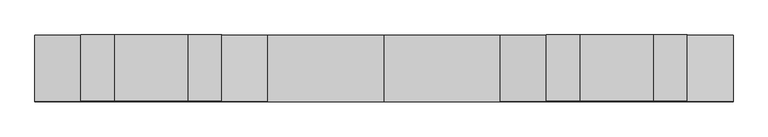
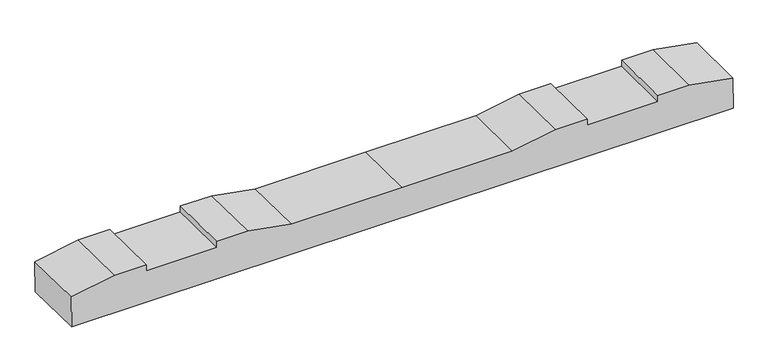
"""IFC4 building model written with IfcOpenShell, lengths in millimetres: proxy geometry, 轨枕-立面角度 : 轨枕-立面角度."""

from ifc_helpers import new_model, si_unit, frame, origin, place, context, project, spatial, polyline, outline, extrude, source, transform, mapped, element, save


def generic_models_86caeae3(model_context):
    return source(origin(), model_context, "Body", "SweptSolid", [
        extrude(outline(polyline([(0.0, 0.0), (0.0, -100.020689), (-137.8834664, -124.5000001), (-237.8834664, -124.5000001), (-237.8834664, -104.5), (-461.8834664, -104.5), (-461.8834664, -124.5000001), (-561.8834664, -124.5000001), (-699.8834664, -100.0), (-1049.8834664, -100.0), (-1399.8834664, -100.0), (-1537.8834664, -124.5000001), (-1637.8834664, -124.5000001), (-1637.8834664, -104.5), (-1861.8834664, -104.5), (-1861.8834664, -124.5000001), (-1961.8834664, -124.5000001), (-2099.7669328, -100.020689), (-2099.7669328, 0.0), (0.0, 0.0)])), frame((-1049.8834664, 98.7805294, -105.6534761), z_axis=(0.0, -0.9999326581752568, 0.01160513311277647), x_axis=(-1.0, 0.0, 0.0)), (0.0, 0.0, 1.0), 200.0),
    ])


if __name__ == "__main__":
    model = new_model("IFC4")
    model_context = context("Model", 3, world=origin())
    ifc_project = project(units=[si_unit("LENGTHUNIT", "METRE", prefix="MILLI")], contexts=[model_context])
    site = spatial("IfcSite", under=ifc_project)
    building = spatial("IfcBuilding", under=site)
    placement = place(None, origin())
    generic_models_shape = generic_models_86caeae3(model_context)
    element("IfcBuildingElementProxy", 1, Name="轨枕-立面角度 : 轨枕-立面角度", ObjectType="轨枕-立面角度 : 轨枕-立面角度", at=placement, inside=building, context=model_context, shape_type="MappedRepresentation", body=[
        mapped(generic_models_shape, transform((0.0, 0.0, 0.0), x_axis=(1.0, 0.0, 0.0), y_axis=(0.0, 1.0, 0.0), z_axis=(0.0, 0.0, 1.0))),
    ])
    save(model, "model.ifc")
